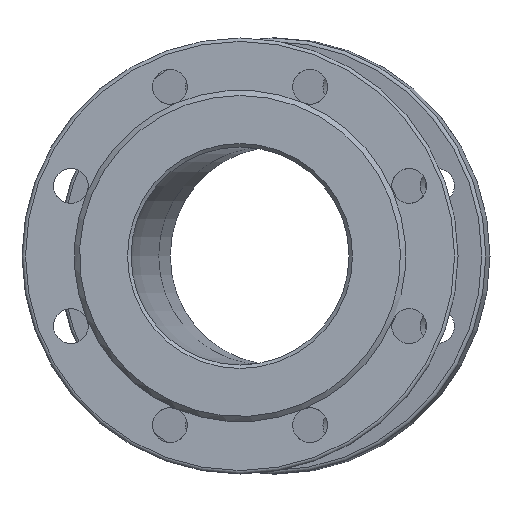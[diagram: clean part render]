
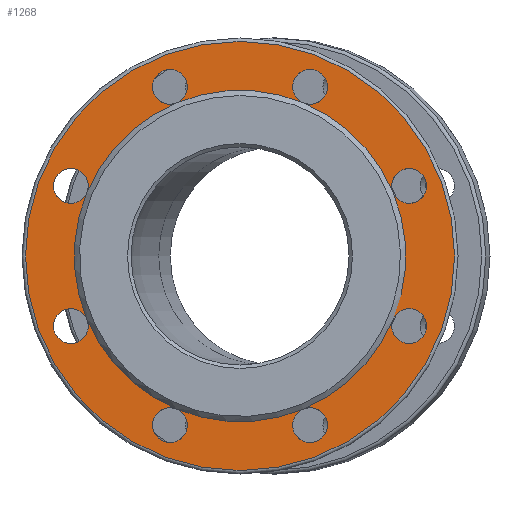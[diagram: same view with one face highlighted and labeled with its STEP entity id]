
A CAD part, left-side view. The second image highlights one B-rep face of the part: STEP entity #1268.
In plain terms, the highlighted planar face has unit normal (-1, 0, 0).
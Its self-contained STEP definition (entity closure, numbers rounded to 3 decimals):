
#50 = CARTESIAN_POINT ( 'NONE',  ( 3., -97.007, -40.182 ) ) ;
#79 = CARTESIAN_POINT ( 'NONE',  ( 3., -36.355, -87.769 ) ) ;
#180 = CIRCLE ( 'NONE', #262, 95. ) ;
#201 = CARTESIAN_POINT ( 'NONE',  ( 3., 0., -123. ) ) ;
#239 = DIRECTION ( 'NONE',  ( -1., 0., 0. ) ) ;
#243 = DIRECTION ( 'NONE',  ( 0., 0., -1. ) ) ;
#257 = DIRECTION ( 'NONE',  ( -1., 0., 0. ) ) ;
#262 = AXIS2_PLACEMENT_3D ( 'NONE', #3246, #4111, #1162 ) ;
#298 = AXIS2_PLACEMENT_3D ( 'NONE', #434, #4342, #463 ) ;
#343 = CARTESIAN_POINT ( 'NONE',  ( 3., 0., 0. ) ) ;
#356 = CIRCLE ( 'NONE', #4847, 95. ) ;
#434 = CARTESIAN_POINT ( 'NONE',  ( 3., 40.182, 97.007 ) ) ;
#444 = CARTESIAN_POINT ( 'NONE',  ( 3., 97.007, 40.182 ) ) ;
#463 = DIRECTION ( 'NONE',  ( 0., 0., -1. ) ) ;
#470 = DIRECTION ( 'NONE',  ( 0., 0., 1. ) ) ;
#476 = AXIS2_PLACEMENT_3D ( 'NONE', #444, #1323, #3387 ) ;
#522 = CARTESIAN_POINT ( 'NONE',  ( 3., 40.182, -97.007 ) ) ;
#556 = EDGE_CURVE ( 'NONE', #4257, #4257, #4889, .T. ) ;
#628 = FACE_BOUND ( 'NONE', #2617, .T. ) ;
#630 = DIRECTION ( 'NONE',  ( 0., 0., 1. ) ) ;
#651 = AXIS2_PLACEMENT_3D ( 'NONE', #1276, #2972, #5229 ) ;
#674 = ORIENTED_EDGE ( 'NONE', *, *, #5148, .F. ) ;
#683 = CARTESIAN_POINT ( 'NONE',  ( 3., 95., 0. ) ) ;
#701 = ORIENTED_EDGE ( 'NONE', *, *, #3493, .F. ) ;
#737 = AXIS2_PLACEMENT_3D ( 'NONE', #1171, #4095, #243 ) ;
#761 = EDGE_CURVE ( 'NONE', #3442, #3442, #5444, .T. ) ;
#790 = EDGE_CURVE ( 'NONE', #4445, #4257, #1301, .T. ) ;
#815 = ORIENTED_EDGE ( 'NONE', *, *, #790, .F. ) ;
#824 = DIRECTION ( 'NONE',  ( 0., 0., -1. ) ) ;
#829 = ORIENTED_EDGE ( 'NONE', *, *, #5036, .F. ) ;
#842 = AXIS2_PLACEMENT_3D ( 'NONE', #50, #4287, #4804 ) ;
#897 = ORIENTED_EDGE ( 'NONE', *, *, #5382, .F. ) ;
#909 = CARTESIAN_POINT ( 'NONE',  ( 3., 36.355, -87.769 ) ) ;
#996 = EDGE_CURVE ( 'NONE', #4257, #1822, #2521, .T. ) ;
#1028 = DIRECTION ( 'NONE',  ( -1., 0., 0. ) ) ;
#1096 = CIRCLE ( 'NONE', #737, 10. ) ;
#1109 = AXIS2_PLACEMENT_3D ( 'NONE', #522, #5149, #1288 ) ;
#1162 = DIRECTION ( 'NONE',  ( 0., 0., 1. ) ) ;
#1171 = CARTESIAN_POINT ( 'NONE',  ( 3., -97.007, 40.182 ) ) ;
#1214 = EDGE_CURVE ( 'NONE', #2973, #3442, #180, .T. ) ;
#1268 = ADVANCED_FACE ( 'NONE', ( #4545, #628 ), #4036, .F. ) ;
#1276 = CARTESIAN_POINT ( 'NONE',  ( 3., 0., 0. ) ) ;
#1287 = AXIS2_PLACEMENT_3D ( 'NONE', #2550, #3401, #5167 ) ;
#1288 = DIRECTION ( 'NONE',  ( 0., 0., -1. ) ) ;
#1301 = CIRCLE ( 'NONE', #2039, 95. ) ;
#1323 = DIRECTION ( 'NONE',  ( -1., 0., 0. ) ) ;
#1471 = ORIENTED_EDGE ( 'NONE', *, *, #556, .F. ) ;
#1534 = ORIENTED_EDGE ( 'NONE', *, *, #996, .F. ) ;
#1540 = EDGE_CURVE ( 'NONE', #1822, #1822, #3404, .T. ) ;
#1569 = CIRCLE ( 'NONE', #476, 10. ) ;
#1624 = AXIS2_PLACEMENT_3D ( 'NONE', #2593, #5059, #4658 ) ;
#1670 = EDGE_CURVE ( 'NONE', #5131, #2973, #356, .T. ) ;
#1687 = DIRECTION ( 'NONE',  ( -1., 0., 0. ) ) ;
#1771 = EDGE_CURVE ( 'NONE', #4401, #4401, #1569, .T. ) ;
#1822 = VERTEX_POINT ( 'NONE', #79 ) ;
#1832 = DIRECTION ( 'NONE',  ( -1., 0., 0. ) ) ;
#1948 = DIRECTION ( 'NONE',  ( 1., 0., 0. ) ) ;
#1999 = EDGE_CURVE ( 'NONE', #2973, #2973, #1096, .T. ) ;
#2037 = CIRCLE ( 'NONE', #298, 10. ) ;
#2039 = AXIS2_PLACEMENT_3D ( 'NONE', #2788, #1028, #630 ) ;
#2125 = CIRCLE ( 'NONE', #4794, 95. ) ;
#2136 = ORIENTED_EDGE ( 'NONE', *, *, #761, .F. ) ;
#2194 = VERTEX_POINT ( 'NONE', #3281 ) ;
#2373 = EDGE_CURVE ( 'NONE', #5131, #5131, #3266, .T. ) ;
#2484 = CARTESIAN_POINT ( 'NONE',  ( 3., -40.182, -97.007 ) ) ;
#2492 = ORIENTED_EDGE ( 'NONE', *, *, #1540, .F. ) ;
#2521 = CIRCLE ( 'NONE', #1624, 95. ) ;
#2550 = CARTESIAN_POINT ( 'NONE',  ( 3., 0., 0. ) ) ;
#2593 = CARTESIAN_POINT ( 'NONE',  ( 3., 0., 0. ) ) ;
#2617 = EDGE_LOOP ( 'NONE', ( #674, #2136, #3676, #2801, #2645, #3236, #701, #2492, #1534, #1471, #815, #5313, #897, #5199, #2991, #829 ) ) ;
#2645 = ORIENTED_EDGE ( 'NONE', *, *, #1670, .F. ) ;
#2788 = CARTESIAN_POINT ( 'NONE',  ( 3., 0., 0. ) ) ;
#2793 = CARTESIAN_POINT ( 'NONE',  ( 3., -36.355, 87.769 ) ) ;
#2800 = AXIS2_PLACEMENT_3D ( 'NONE', #2484, #3763, #5414 ) ;
#2801 = ORIENTED_EDGE ( 'NONE', *, *, #1999, .F. ) ;
#2912 = AXIS2_PLACEMENT_3D ( 'NONE', #4091, #239, #3978 ) ;
#2916 = DIRECTION ( 'NONE',  ( 0., 0., 1. ) ) ;
#2972 = DIRECTION ( 'NONE',  ( -1., 0., 0. ) ) ;
#2973 = VERTEX_POINT ( 'NONE', #3561 ) ;
#2991 = ORIENTED_EDGE ( 'NONE', *, *, #4266, .F. ) ;
#3018 = CARTESIAN_POINT ( 'NONE',  ( 3., 0., 0. ) ) ;
#3185 = CIRCLE ( 'NONE', #4243, 95. ) ;
#3236 = ORIENTED_EDGE ( 'NONE', *, *, #2373, .F. ) ;
#3246 = CARTESIAN_POINT ( 'NONE',  ( 3., 0., 0. ) ) ;
#3266 = CIRCLE ( 'NONE', #842, 10. ) ;
#3281 = CARTESIAN_POINT ( 'NONE',  ( 3., 36.355, 87.769 ) ) ;
#3387 = DIRECTION ( 'NONE',  ( 0., 0., -1. ) ) ;
#3401 = DIRECTION ( 'NONE',  ( -1., 0., 0. ) ) ;
#3404 = CIRCLE ( 'NONE', #2800, 10. ) ;
#3442 = VERTEX_POINT ( 'NONE', #2793 ) ;
#3493 = EDGE_CURVE ( 'NONE', #1822, #5131, #5449, .T. ) ;
#3561 = CARTESIAN_POINT ( 'NONE',  ( 3., -87.769, 36.355 ) ) ;
#3609 = DIRECTION ( 'NONE',  ( 0., 0., -1. ) ) ;
#3619 = CIRCLE ( 'NONE', #3979, 10. ) ;
#3676 = ORIENTED_EDGE ( 'NONE', *, *, #1214, .F. ) ;
#3706 = EDGE_LOOP ( 'NONE', ( #4249 ) ) ;
#3708 = CIRCLE ( 'NONE', #651, 95. ) ;
#3717 = AXIS2_PLACEMENT_3D ( 'NONE', #4883, #1832, #3609 ) ;
#3722 = DIRECTION ( 'NONE',  ( 0., 0., -1. ) ) ;
#3763 = DIRECTION ( 'NONE',  ( -1., 0., 0. ) ) ;
#3834 = CARTESIAN_POINT ( 'NONE',  ( 3., 87.769, 36.355 ) ) ;
#3978 = DIRECTION ( 'NONE',  ( 0., 0., -1. ) ) ;
#3979 = AXIS2_PLACEMENT_3D ( 'NONE', #5568, #1687, #824 ) ;
#4036 = PLANE ( 'NONE',  #4211 ) ;
#4048 = EDGE_CURVE ( 'NONE', #4901, #4901, #5341, .T. ) ;
#4091 = CARTESIAN_POINT ( 'NONE',  ( 3., 0., 0. ) ) ;
#4095 = DIRECTION ( 'NONE',  ( -1., 0., 0. ) ) ;
#4111 = DIRECTION ( 'NONE',  ( -1., 0., 0. ) ) ;
#4211 = AXIS2_PLACEMENT_3D ( 'NONE', #683, #1948, #3722 ) ;
#4231 = DIRECTION ( 'NONE',  ( -1., 0., 0. ) ) ;
#4243 = AXIS2_PLACEMENT_3D ( 'NONE', #343, #257, #2916 ) ;
#4249 = ORIENTED_EDGE ( 'NONE', *, *, #4048, .T. ) ;
#4257 = VERTEX_POINT ( 'NONE', #909 ) ;
#4266 = EDGE_CURVE ( 'NONE', #2194, #4401, #3708, .T. ) ;
#4287 = DIRECTION ( 'NONE',  ( -1., 0., 0. ) ) ;
#4342 = DIRECTION ( 'NONE',  ( -1., 0., 0. ) ) ;
#4401 = VERTEX_POINT ( 'NONE', #3834 ) ;
#4405 = EDGE_CURVE ( 'NONE', #4445, #4445, #3619, .T. ) ;
#4425 = DIRECTION ( 'NONE',  ( 0., 0., 1. ) ) ;
#4445 = VERTEX_POINT ( 'NONE', #4978 ) ;
#4545 = FACE_OUTER_BOUND ( 'NONE', #3706, .T. ) ;
#4658 = DIRECTION ( 'NONE',  ( 0., 0., 1. ) ) ;
#4794 = AXIS2_PLACEMENT_3D ( 'NONE', #4875, #4845, #4425 ) ;
#4804 = DIRECTION ( 'NONE',  ( 0., 0., -1. ) ) ;
#4845 = DIRECTION ( 'NONE',  ( -1., 0., 0. ) ) ;
#4847 = AXIS2_PLACEMENT_3D ( 'NONE', #3018, #4231, #470 ) ;
#4875 = CARTESIAN_POINT ( 'NONE',  ( 3., 0., 0. ) ) ;
#4883 = CARTESIAN_POINT ( 'NONE',  ( 3., -40.182, 97.007 ) ) ;
#4889 = CIRCLE ( 'NONE', #1109, 10. ) ;
#4901 = VERTEX_POINT ( 'NONE', #201 ) ;
#4978 = CARTESIAN_POINT ( 'NONE',  ( 3., 87.769, -36.355 ) ) ;
#5036 = EDGE_CURVE ( 'NONE', #2194, #2194, #2037, .T. ) ;
#5059 = DIRECTION ( 'NONE',  ( -1., 0., 0. ) ) ;
#5131 = VERTEX_POINT ( 'NONE', #5285 ) ;
#5148 = EDGE_CURVE ( 'NONE', #3442, #2194, #2125, .T. ) ;
#5149 = DIRECTION ( 'NONE',  ( -1., 0., 0. ) ) ;
#5167 = DIRECTION ( 'NONE',  ( 0., 0., 1. ) ) ;
#5199 = ORIENTED_EDGE ( 'NONE', *, *, #1771, .F. ) ;
#5229 = DIRECTION ( 'NONE',  ( 0., 0., 1. ) ) ;
#5285 = CARTESIAN_POINT ( 'NONE',  ( 3., -87.769, -36.355 ) ) ;
#5313 = ORIENTED_EDGE ( 'NONE', *, *, #4405, .F. ) ;
#5341 = CIRCLE ( 'NONE', #2912, 123. ) ;
#5382 = EDGE_CURVE ( 'NONE', #4401, #4445, #3185, .T. ) ;
#5414 = DIRECTION ( 'NONE',  ( 0., 0., -1. ) ) ;
#5444 = CIRCLE ( 'NONE', #3717, 10. ) ;
#5449 = CIRCLE ( 'NONE', #1287, 95. ) ;
#5568 = CARTESIAN_POINT ( 'NONE',  ( 3., 97.007, -40.182 ) ) ;
